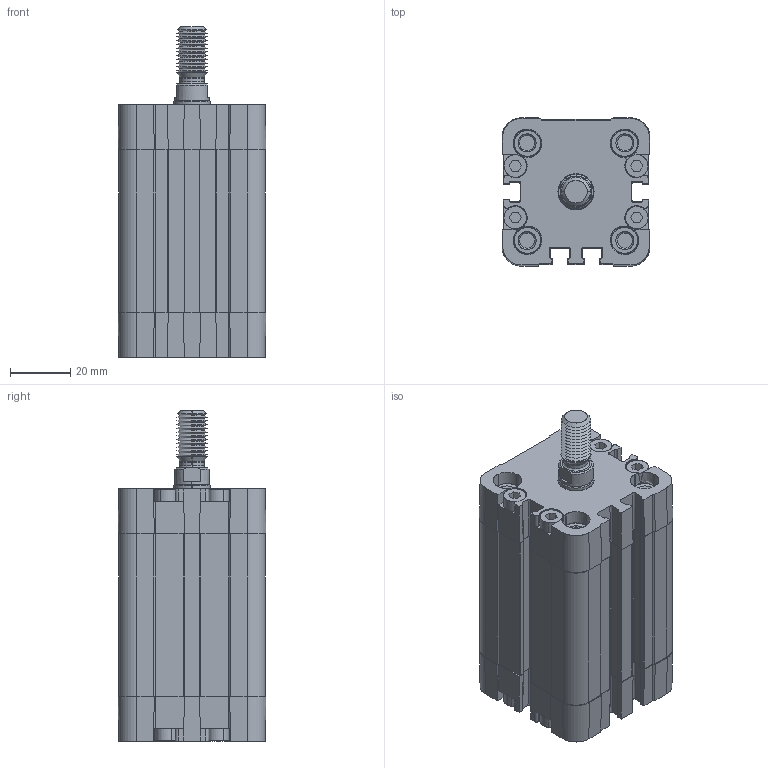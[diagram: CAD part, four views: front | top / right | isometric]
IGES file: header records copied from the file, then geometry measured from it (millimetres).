
Start section: SolidWorks IGES file using analytic representation for surfaces
Global section: file name: W:\_ALTRO\CATALOGO 3D\CYLINDERS\NSK\032\IGES\NSKI 032 M\NSKI032.0040 M.IGS; native system: SolidWorks 2009; preprocessor: SolidWorks 2009; author: utente03; date: 110606.150842; units: millimetre
Bounding box: 49.2 x 49.2 x 110 mm (x, y, z)
Surface area: 56251 mm2 (no closed solid volume)
Topology: 0 solids, 0 shells, 1095 faces, 10650 edges, 10634 vertices
Faces by surface type: revolution 564, bspline 531
